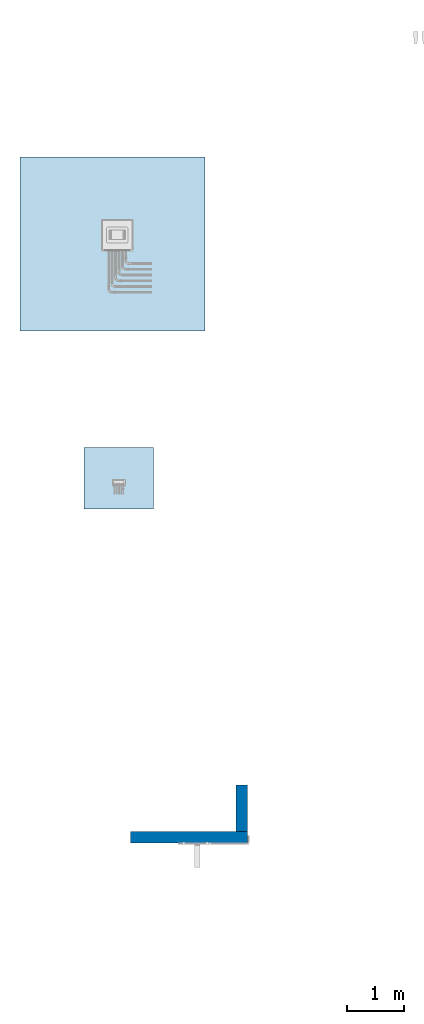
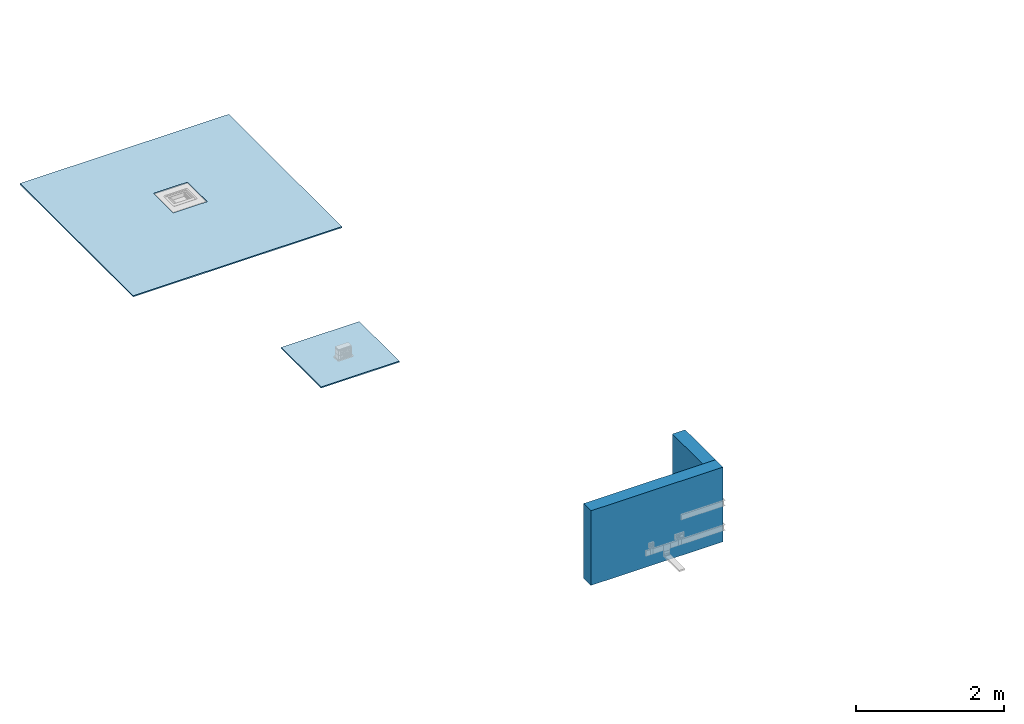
# One storey, part 1 of 87: 2 slabs, 2 walls, 1 opening.
"""IFC2X3 building model written with IfcOpenShell, lengths in millimetres."""

from ifc_helpers import new_model, entity, si_unit, converted_unit, derived_unit, direction, frame, frame_2d, origin, origin_2d_with_axis, place, context, subcontext, project, spatial, rectangle, extrude, material, layer, layer_set, layer_usage, type_object, element, save


model = new_model("IFC2X3")

# Units and contexts
model_context = context("Model", 3, precision=0.01, world=origin(), true_north=direction((6.12303176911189e-17, 1.0)))
body_context = subcontext(model_context, "Body", "Model", "MODEL_VIEW")
ifc_project = project(units=[si_unit("LENGTHUNIT", "METRE", prefix="MILLI"), si_unit("AREAUNIT", "SQUARE_METRE"), si_unit("VOLUMEUNIT", "CUBIC_METRE"), converted_unit("PLANEANGLEUNIT", "DEGREE", entity("IfcRatioMeasure", 0.0174532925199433), si_unit("PLANEANGLEUNIT", "RADIAN"), dimensions=[0, 0, 0, 0, 0, 0, 0]), si_unit("MASSUNIT", "GRAM", prefix="KILO"), derived_unit("MASSDENSITYUNIT", [(si_unit("MASSUNIT", "GRAM", prefix="KILO"), 1), (si_unit("LENGTHUNIT", "METRE"), -3)]), si_unit("TIMEUNIT", "SECOND"), si_unit("FREQUENCYUNIT", "HERTZ"), si_unit("THERMODYNAMICTEMPERATUREUNIT", "DEGREE_CELSIUS"), derived_unit("THERMALTRANSMITTANCEUNIT", [(si_unit("MASSUNIT", "GRAM", prefix="KILO"), 1), (si_unit("THERMODYNAMICTEMPERATUREUNIT", "KELVIN"), -1), (si_unit("TIMEUNIT", "SECOND"), -3)]), derived_unit("VOLUMETRICFLOWRATEUNIT", [(si_unit("LENGTHUNIT", "METRE"), 3), (si_unit("TIMEUNIT", "SECOND"), -1)]), si_unit("ELECTRICCURRENTUNIT", "AMPERE"), si_unit("ELECTRICVOLTAGEUNIT", "VOLT"), si_unit("POWERUNIT", "WATT"), si_unit("FORCEUNIT", "NEWTON", prefix="KILO"), si_unit("ILLUMINANCEUNIT", "LUX"), si_unit("LUMINOUSFLUXUNIT", "LUMEN"), si_unit("LUMINOUSINTENSITYUNIT", "CANDELA"), derived_unit("USERDEFINED", [(si_unit("MASSUNIT", "GRAM", prefix="KILO"), -1), (si_unit("LENGTHUNIT", "METRE"), -2), (si_unit("TIMEUNIT", "SECOND"), 3), (si_unit("LUMINOUSFLUXUNIT", "LUMEN"), 1)]), derived_unit("LINEARVELOCITYUNIT", [(si_unit("LENGTHUNIT", "METRE"), 1), (si_unit("TIMEUNIT", "SECOND"), -1)]), si_unit("PRESSUREUNIT", "PASCAL"), derived_unit("USERDEFINED", [(si_unit("LENGTHUNIT", "METRE"), -2), (si_unit("MASSUNIT", "GRAM", prefix="KILO"), 1), (si_unit("TIMEUNIT", "SECOND"), -2)])], contexts=[model_context])

# Site, building, storey
site_placement = place(None, origin())
site = spatial("IfcSite", under=ifc_project, at=site_placement, Name="Default", CompositionType="ELEMENT")
building_placement = place(site_placement, origin())
building = spatial("IfcBuilding", under=site, at=building_placement, Name="Наименование здания", CompositionType="ELEMENT")
storey_placement = place(building_placement, origin())
storey = spatial("IfcBuildingStorey", under=building, at=storey_placement, Name="Этаж 01", CompositionType="ELEMENT", Elevation=0.0)

# Slab, opening
ifc_material = material(Name="<Unnamed>")
ifc_layer_1 = layer(ifc_material, 20.0)
ifc_layer_set_1 = layer_set([ifc_layer_1], Name="Перекрытие:ADSK_Пол_Условный_20")
ifc_layer_usage_1 = layer_usage(ifc_layer_set_1, "AXIS3", "POSITIVE", 0.0)
slab_1_placement = place(storey_placement, frame((-18527.0414365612, 5037.24107690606, -20.0)))
slab_1 = element("IfcSlab", 1, at=slab_1_placement, inside=storey, material=ifc_layer_usage_1, Name="Перекрытие:ADSK_Пол_Условный_20", ObjectType="Перекрытие:ADSK_Пол_Условный_20", PredefinedType="FLOOR", context=body_context, shape_type="SweptSolid", body=[
    extrude(rectangle(XDim=3060.0, YDim=3260.0, at=frame_2d((0.0, 0.0), x_axis=(0.0, -1.0))), frame((1630.0, 1530.0, 20.0), z_axis=(0.0, 0.0, -1.0), x_axis=(-1.0, 0.0, 0.0)), (0.0, 0.0, 1.0), 20.0),
])
opening_placement = place(slab_1_placement, frame((1711.80109503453, 1687.19313162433, 20.0)))
element("IfcOpeningElement", 2, at=opening_placement, cuts=slab_1, Name="Перекрытие:ADSK_Пол_Условный_20:2", ObjectType="Opening", context=body_context, shape_type="SweptSolid", body=[
    extrude(rectangle(XDim=530.000000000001, YDim=530.000000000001, at=origin_2d_with_axis()), frame((0.0, 0.0, 0.0), z_axis=(0.0, 0.0, 1.0), x_axis=(0.0, -1.0, 0.0)), (0.0, 0.0, -1.0), 20.0),
])

# Slab
ifc_layer_usage_2 = layer_usage(ifc_layer_set_1, "AXIS3", "POSITIVE", 0.0)
slab_2_placement = place(storey_placement, origin())
element("IfcSlab", 3, at=slab_2_placement, inside=storey, material=ifc_layer_usage_2, Name="Перекрытие:ADSK_Пол_Условный_20", ObjectType="Перекрытие:ADSK_Пол_Условный_20", PredefinedType="FLOOR", context=body_context, shape_type="SweptSolid", body=[
    extrude(rectangle(XDim=1080.0, YDim=1220.0, at=origin_2d_with_axis()), frame((-16790.4506447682, 2443.91903279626, 0.0), z_axis=(0.0, 0.0, -1.0), x_axis=(0.0, 1.0, 0.0)), (0.0, 0.0, 1.0), 20.0),
])

# Walls
ifc_layer_2 = layer(ifc_material, 200.0)
ifc_layer_set_2 = layer_set([ifc_layer_2], Name="Базовая стена:Типовой - 200мм")
ifc_layer_usage_3 = layer_usage(ifc_layer_set_2, "AXIS2", "NEGATIVE", 100.0)
wall_type = type_object("IfcWallType", Name="Базовая стена:Типовой - 200мм", PredefinedType="STANDARD", material=ifc_layer_set_2)
wall_1_placement = place(storey_placement, frame((-16580.9658098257, -3872.88925968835, 0.0)))
element("IfcWallStandardCase", 4, at=wall_1_placement, inside=storey, type_object=wall_type, material=ifc_layer_usage_3, Name="Базовая стена:Типовой - 200мм", ObjectType="Базовая стена:Типовой - 200мм", context=body_context, shape_type="SweptSolid", body=[
    extrude(rectangle(XDim=2060.0, YDim=200.0, at=frame_2d((1030.0, -2.06057393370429e-13), x_axis=(-1.0, 0.0))), origin(), (0.0, 0.0, 1.0), 1232.50957882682),
])
ifc_layer_usage_4 = layer_usage(ifc_layer_set_2, "AXIS2", "NEGATIVE", 100.0)
wall_2_placement = place(storey_placement, frame((-14620.9658098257, -3772.88925968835, 0.0), z_axis=(0.0, 0.0, 1.0), x_axis=(0.0, 1.0, 0.0)))
element("IfcWallStandardCase", 5, at=wall_2_placement, inside=storey, type_object=wall_type, material=ifc_layer_usage_4, Name="Базовая стена:Типовой - 200мм", ObjectType="Базовая стена:Типовой - 200мм", context=body_context, shape_type="SweptSolid", body=[
    extrude(rectangle(XDim=819.999999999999, YDim=199.999999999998, at=frame_2d((410.0, 0.0), x_axis=(-1.0, 0.0))), origin(), (0.0, 0.0, 1.0), 1232.50957882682),
])

save(model, "model.ifc")
